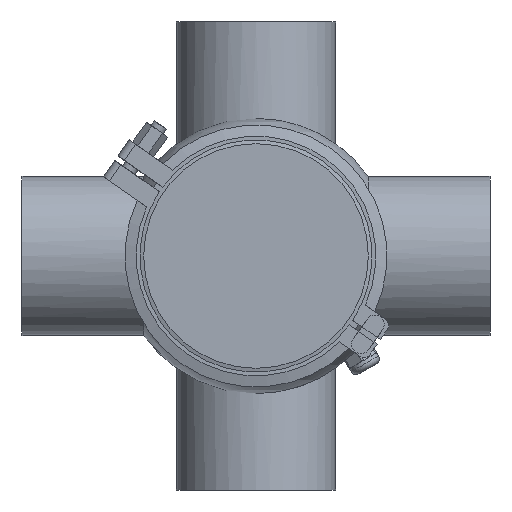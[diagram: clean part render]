
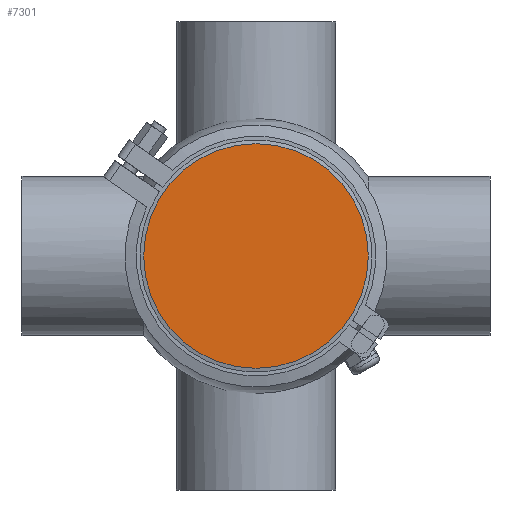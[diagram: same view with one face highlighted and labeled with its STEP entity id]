
A CAD part, front view. The second image highlights one B-rep face of the part: STEP entity #7301.
In plain terms, the highlighted planar face has unit normal (0, -1, 0).
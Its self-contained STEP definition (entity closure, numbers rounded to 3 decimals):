
#4155 = FACE_OUTER_BOUND ( 'NONE', #6853, .T. ) ;
#6853 = EDGE_LOOP ( 'NONE', ( #57176 ) ) ;
#7301 = ADVANCED_FACE ( 'NONE', ( #4155 ), #33757, .T. ) ;
#18458 = AXIS2_PLACEMENT_3D ( 'NONE', #21065, #20755, #21371 ) ;
#20247 = AXIS2_PLACEMENT_3D ( 'NONE', #28204, #56626, #32815 ) ;
#20755 = DIRECTION ( 'NONE',  ( 0., 1., 0. ) ) ;
#21065 = CARTESIAN_POINT ( 'NONE',  ( 0., 0., 0. ) ) ;
#21371 = DIRECTION ( 'NONE',  ( 0., 0., 1. ) ) ;
#28204 = CARTESIAN_POINT ( 'NONE',  ( -60., 0., 0. ) ) ;
#29291 = CIRCLE ( 'NONE', #18458, 60. ) ;
#31861 = CARTESIAN_POINT ( 'NONE',  ( 0., 0., 60. ) ) ;
#32815 = DIRECTION ( 'NONE',  ( 0., 0., -1. ) ) ;
#33757 = PLANE ( 'NONE',  #20247 ) ;
#53832 = EDGE_CURVE ( 'NONE', #60890, #60890, #29291, .T. ) ;
#56626 = DIRECTION ( 'NONE',  ( 0., -1., 0. ) ) ;
#57176 = ORIENTED_EDGE ( 'NONE', *, *, #53832, .F. ) ;
#60890 = VERTEX_POINT ( 'NONE', #31861 ) ;
